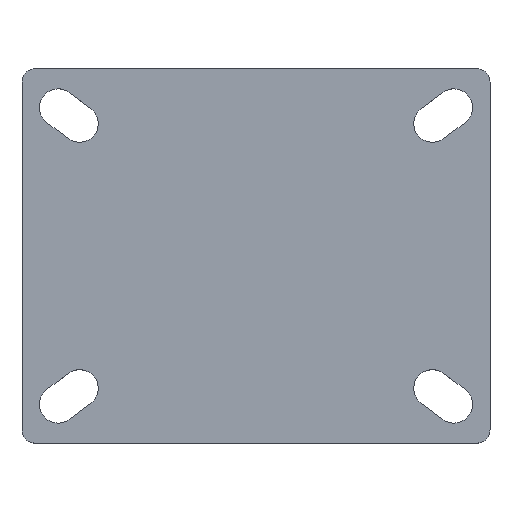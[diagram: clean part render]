
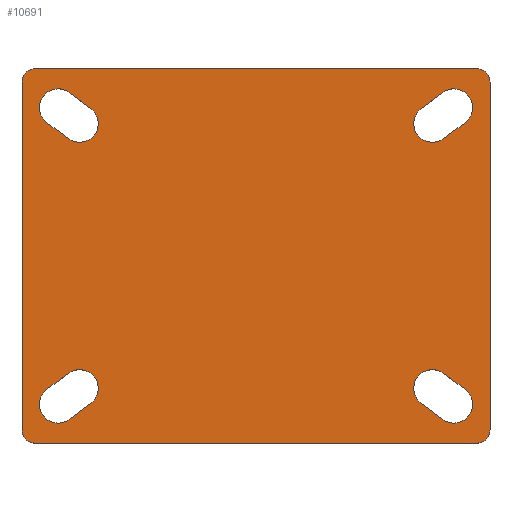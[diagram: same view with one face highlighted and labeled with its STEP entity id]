
A CAD part, top view. The second image highlights one B-rep face of the part: STEP entity #10691.
In plain terms, the highlighted planar face has unit normal (0, 0, 1).
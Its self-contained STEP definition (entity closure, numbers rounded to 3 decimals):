
#766=FACE_BOUND('',#3833,.T.);
#767=FACE_BOUND('',#3834,.T.);
#768=FACE_BOUND('',#3835,.T.);
#769=FACE_BOUND('',#3836,.T.);
#1621=LINE('',#18186,#2549);
#1624=LINE('',#18194,#2552);
#1627=LINE('',#18202,#2555);
#1630=LINE('',#18210,#2558);
#1633=LINE('',#18218,#2561);
#1636=LINE('',#18226,#2564);
#1639=LINE('',#18234,#2567);
#1642=LINE('',#18242,#2570);
#1646=LINE('',#18254,#2574);
#1649=LINE('',#18262,#2577);
#1652=LINE('',#18270,#2580);
#1655=LINE('',#18277,#2583);
#2549=VECTOR('',#13043,10.);
#2552=VECTOR('',#13052,10.);
#2555=VECTOR('',#13061,10.);
#2558=VECTOR('',#13070,10.);
#2561=VECTOR('',#13079,10.);
#2564=VECTOR('',#13088,10.);
#2567=VECTOR('',#13097,10.);
#2570=VECTOR('',#13106,10.);
#2574=VECTOR('',#13120,10.);
#2577=VECTOR('',#13129,10.);
#2580=VECTOR('',#13138,10.);
#2583=VECTOR('',#13147,10.);
#3199=FACE_OUTER_BOUND('',#3832,.T.);
#3832=EDGE_LOOP('',(#9550,#9551,#9552,#9553,#9554,#9555,#9556,#9557));
#3833=EDGE_LOOP('',(#9558,#9559,#9560,#9561));
#3834=EDGE_LOOP('',(#9562,#9563,#9564,#9565));
#3835=EDGE_LOOP('',(#9566,#9567,#9568,#9569));
#3836=EDGE_LOOP('',(#9570,#9571,#9572,#9573));
#4034=CIRCLE('',#11200,7.);
#4035=CIRCLE('',#11203,7.);
#4036=CIRCLE('',#11206,7.);
#4037=CIRCLE('',#11209,7.);
#4038=CIRCLE('',#11212,7.);
#4039=CIRCLE('',#11215,7.);
#4040=CIRCLE('',#11218,7.);
#4041=CIRCLE('',#11221,7.);
#4042=CIRCLE('',#11223,5.);
#4043=CIRCLE('',#11226,5.);
#4044=CIRCLE('',#11229,5.);
#4045=CIRCLE('',#11232,5.);
#5047=VERTEX_POINT('',#18183);
#5048=VERTEX_POINT('',#18185);
#5049=VERTEX_POINT('',#18189);
#5050=VERTEX_POINT('',#18193);
#5051=VERTEX_POINT('',#18199);
#5052=VERTEX_POINT('',#18201);
#5053=VERTEX_POINT('',#18205);
#5054=VERTEX_POINT('',#18209);
#5055=VERTEX_POINT('',#18215);
#5056=VERTEX_POINT('',#18217);
#5057=VERTEX_POINT('',#18221);
#5058=VERTEX_POINT('',#18225);
#5059=VERTEX_POINT('',#18231);
#5060=VERTEX_POINT('',#18233);
#5061=VERTEX_POINT('',#18237);
#5062=VERTEX_POINT('',#18241);
#5063=VERTEX_POINT('',#18247);
#5064=VERTEX_POINT('',#18249);
#5065=VERTEX_POINT('',#18253);
#5066=VERTEX_POINT('',#18257);
#5067=VERTEX_POINT('',#18261);
#5068=VERTEX_POINT('',#18265);
#5069=VERTEX_POINT('',#18269);
#5070=VERTEX_POINT('',#18273);
#6546=EDGE_CURVE('',#5048,#5047,#1621,.T.);
#6548=EDGE_CURVE('',#5049,#5048,#4034,.T.);
#6550=EDGE_CURVE('',#5050,#5049,#1624,.T.);
#6552=EDGE_CURVE('',#5047,#5050,#4035,.T.);
#6554=EDGE_CURVE('',#5052,#5051,#1627,.T.);
#6556=EDGE_CURVE('',#5053,#5052,#4036,.T.);
#6558=EDGE_CURVE('',#5054,#5053,#1630,.T.);
#6560=EDGE_CURVE('',#5051,#5054,#4037,.T.);
#6562=EDGE_CURVE('',#5056,#5055,#1633,.T.);
#6564=EDGE_CURVE('',#5057,#5056,#4038,.T.);
#6566=EDGE_CURVE('',#5058,#5057,#1636,.T.);
#6568=EDGE_CURVE('',#5055,#5058,#4039,.T.);
#6570=EDGE_CURVE('',#5060,#5059,#1639,.T.);
#6572=EDGE_CURVE('',#5061,#5060,#4040,.T.);
#6574=EDGE_CURVE('',#5062,#5061,#1642,.T.);
#6576=EDGE_CURVE('',#5059,#5062,#4041,.T.);
#6578=EDGE_CURVE('',#5064,#5063,#4042,.T.);
#6580=EDGE_CURVE('',#5065,#5064,#1646,.T.);
#6582=EDGE_CURVE('',#5066,#5065,#4043,.T.);
#6584=EDGE_CURVE('',#5067,#5066,#1649,.T.);
#6586=EDGE_CURVE('',#5068,#5067,#4044,.T.);
#6588=EDGE_CURVE('',#5069,#5068,#1652,.T.);
#6590=EDGE_CURVE('',#5070,#5069,#4045,.T.);
#6592=EDGE_CURVE('',#5063,#5070,#1655,.T.);
#9550=ORIENTED_EDGE('',*,*,#6592,.T.);
#9551=ORIENTED_EDGE('',*,*,#6590,.T.);
#9552=ORIENTED_EDGE('',*,*,#6588,.T.);
#9553=ORIENTED_EDGE('',*,*,#6586,.T.);
#9554=ORIENTED_EDGE('',*,*,#6584,.T.);
#9555=ORIENTED_EDGE('',*,*,#6582,.T.);
#9556=ORIENTED_EDGE('',*,*,#6580,.T.);
#9557=ORIENTED_EDGE('',*,*,#6578,.T.);
#9558=ORIENTED_EDGE('',*,*,#6576,.T.);
#9559=ORIENTED_EDGE('',*,*,#6574,.T.);
#9560=ORIENTED_EDGE('',*,*,#6572,.T.);
#9561=ORIENTED_EDGE('',*,*,#6570,.T.);
#9562=ORIENTED_EDGE('',*,*,#6568,.T.);
#9563=ORIENTED_EDGE('',*,*,#6566,.T.);
#9564=ORIENTED_EDGE('',*,*,#6564,.T.);
#9565=ORIENTED_EDGE('',*,*,#6562,.T.);
#9566=ORIENTED_EDGE('',*,*,#6560,.T.);
#9567=ORIENTED_EDGE('',*,*,#6558,.T.);
#9568=ORIENTED_EDGE('',*,*,#6556,.T.);
#9569=ORIENTED_EDGE('',*,*,#6554,.T.);
#9570=ORIENTED_EDGE('',*,*,#6552,.T.);
#9571=ORIENTED_EDGE('',*,*,#6550,.T.);
#9572=ORIENTED_EDGE('',*,*,#6548,.T.);
#9573=ORIENTED_EDGE('',*,*,#6546,.T.);
#10141=PLANE('',#11234);
#10691=ADVANCED_FACE('',(#3199,#766,#767,#768,#769),#10141,.T.);
#11200=AXIS2_PLACEMENT_3D('',#18190,#13047,#13048);
#11203=AXIS2_PLACEMENT_3D('',#18197,#13056,#13057);
#11206=AXIS2_PLACEMENT_3D('',#18206,#13065,#13066);
#11209=AXIS2_PLACEMENT_3D('',#18213,#13074,#13075);
#11212=AXIS2_PLACEMENT_3D('',#18222,#13083,#13084);
#11215=AXIS2_PLACEMENT_3D('',#18229,#13092,#13093);
#11218=AXIS2_PLACEMENT_3D('',#18238,#13101,#13102);
#11221=AXIS2_PLACEMENT_3D('',#18245,#13110,#13111);
#11223=AXIS2_PLACEMENT_3D('',#18250,#13115,#13116);
#11226=AXIS2_PLACEMENT_3D('',#18258,#13124,#13125);
#11229=AXIS2_PLACEMENT_3D('',#18266,#13133,#13134);
#11232=AXIS2_PLACEMENT_3D('',#18274,#13142,#13143);
#11234=AXIS2_PLACEMENT_3D('',#18278,#13148,#13149);
#13043=DIRECTION('',(0.8,-0.6,0.));
#13047=DIRECTION('center_axis',(0.,0.,-1.));
#13048=DIRECTION('ref_axis',(-0.6,-0.8,0.));
#13052=DIRECTION('',(-0.8,0.6,0.));
#13056=DIRECTION('center_axis',(0.,0.,-1.));
#13057=DIRECTION('ref_axis',(0.6,0.8,0.));
#13061=DIRECTION('',(-0.8,-0.6,0.));
#13065=DIRECTION('center_axis',(0.,0.,-1.));
#13066=DIRECTION('ref_axis',(-0.6,0.8,0.));
#13070=DIRECTION('',(0.8,0.6,0.));
#13074=DIRECTION('center_axis',(0.,0.,-1.));
#13075=DIRECTION('ref_axis',(0.6,-0.8,0.));
#13079=DIRECTION('',(-0.8,0.6,0.));
#13083=DIRECTION('center_axis',(0.,0.,-1.));
#13084=DIRECTION('ref_axis',(0.6,0.8,0.));
#13088=DIRECTION('',(0.8,-0.6,0.));
#13092=DIRECTION('center_axis',(0.,0.,-1.));
#13093=DIRECTION('ref_axis',(-0.6,-0.8,0.));
#13097=DIRECTION('',(-0.8,-0.6,0.));
#13101=DIRECTION('center_axis',(0.,0.,-1.));
#13102=DIRECTION('ref_axis',(-0.6,0.8,0.));
#13106=DIRECTION('',(0.8,0.6,0.));
#13110=DIRECTION('center_axis',(0.,0.,-1.));
#13111=DIRECTION('ref_axis',(0.6,-0.8,0.));
#13115=DIRECTION('center_axis',(0.,0.,1.));
#13116=DIRECTION('ref_axis',(-1.,0.,0.));
#13120=DIRECTION('',(0.,-1.,0.));
#13124=DIRECTION('center_axis',(0.,0.,1.));
#13125=DIRECTION('ref_axis',(0.,1.,0.));
#13129=DIRECTION('',(-1.,0.,0.));
#13133=DIRECTION('center_axis',(0.,0.,1.));
#13134=DIRECTION('ref_axis',(1.,0.,0.));
#13138=DIRECTION('',(0.,1.,0.));
#13142=DIRECTION('center_axis',(0.,0.,1.));
#13143=DIRECTION('ref_axis',(0.,-1.,0.));
#13147=DIRECTION('',(1.,0.,0.));
#13148=DIRECTION('center_axis',(0.,0.,1.));
#13149=DIRECTION('ref_axis',(1.,0.,0.));
#18183=CARTESIAN_POINT('',(78.2,-49.9,10.));
#18185=CARTESIAN_POINT('',(70.2,-43.9,10.));
#18186=CARTESIAN_POINT('',(70.2,-43.9,10.));
#18189=CARTESIAN_POINT('',(61.8,-55.1,10.));
#18190=CARTESIAN_POINT('Origin',(66.,-49.5,10.));
#18193=CARTESIAN_POINT('',(69.8,-61.1,10.));
#18194=CARTESIAN_POINT('',(69.8,-61.1,10.));
#18197=CARTESIAN_POINT('Origin',(74.,-55.5,10.));
#18199=CARTESIAN_POINT('',(70.2,43.9,10.));
#18201=CARTESIAN_POINT('',(78.2,49.9,10.));
#18202=CARTESIAN_POINT('',(78.2,49.9,10.));
#18205=CARTESIAN_POINT('',(69.8,61.1,10.));
#18206=CARTESIAN_POINT('Origin',(74.,55.5,10.));
#18209=CARTESIAN_POINT('',(61.8,55.1,10.));
#18210=CARTESIAN_POINT('',(61.8,55.1,10.));
#18213=CARTESIAN_POINT('Origin',(66.,49.5,10.));
#18215=CARTESIAN_POINT('',(-78.2,49.9,10.));
#18217=CARTESIAN_POINT('',(-70.2,43.9,10.));
#18218=CARTESIAN_POINT('',(-70.2,43.9,10.));
#18221=CARTESIAN_POINT('',(-61.8,55.1,10.));
#18222=CARTESIAN_POINT('Origin',(-66.,49.5,10.));
#18225=CARTESIAN_POINT('',(-69.8,61.1,10.));
#18226=CARTESIAN_POINT('',(-69.8,61.1,10.));
#18229=CARTESIAN_POINT('Origin',(-74.,55.5,10.));
#18231=CARTESIAN_POINT('',(-69.8,-61.1,10.));
#18233=CARTESIAN_POINT('',(-61.8,-55.1,10.));
#18234=CARTESIAN_POINT('',(-61.8,-55.1,10.));
#18237=CARTESIAN_POINT('',(-70.2,-43.9,10.));
#18238=CARTESIAN_POINT('Origin',(-66.,-49.5,10.));
#18241=CARTESIAN_POINT('',(-78.2,-49.9,10.));
#18242=CARTESIAN_POINT('',(-78.2,-49.9,10.));
#18245=CARTESIAN_POINT('Origin',(-74.,-55.5,10.));
#18247=CARTESIAN_POINT('',(-82.5,-70.,10.));
#18249=CARTESIAN_POINT('',(-87.5,-65.,10.));
#18250=CARTESIAN_POINT('Origin',(-82.5,-65.,10.));
#18253=CARTESIAN_POINT('',(-87.5,65.,10.));
#18254=CARTESIAN_POINT('',(-87.5,65.,10.));
#18257=CARTESIAN_POINT('',(-82.5,70.,10.));
#18258=CARTESIAN_POINT('Origin',(-82.5,65.,10.));
#18261=CARTESIAN_POINT('',(82.5,70.,10.));
#18262=CARTESIAN_POINT('',(82.5,70.,10.));
#18265=CARTESIAN_POINT('',(87.5,65.,10.));
#18266=CARTESIAN_POINT('Origin',(82.5,65.,10.));
#18269=CARTESIAN_POINT('',(87.5,-65.,10.));
#18270=CARTESIAN_POINT('',(87.5,-65.,10.));
#18273=CARTESIAN_POINT('',(82.5,-70.,10.));
#18274=CARTESIAN_POINT('Origin',(82.5,-65.,10.));
#18277=CARTESIAN_POINT('',(-82.5,-70.,10.));
#18278=CARTESIAN_POINT('Origin',(0.,0.,
10.));
